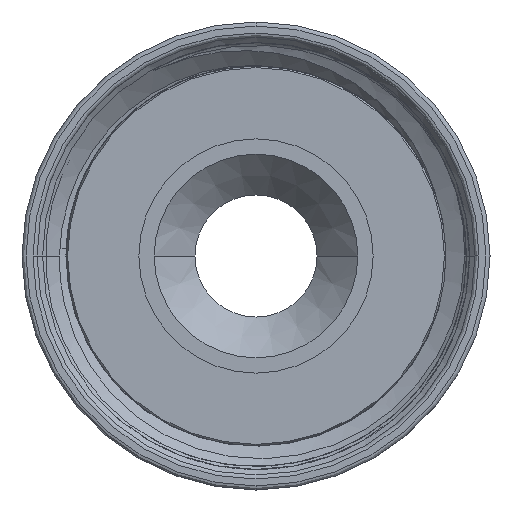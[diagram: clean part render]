
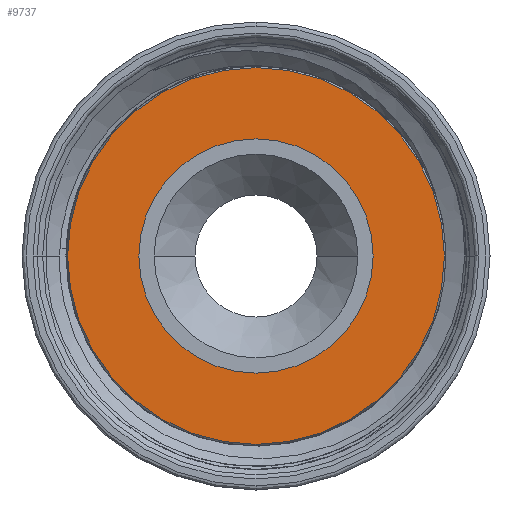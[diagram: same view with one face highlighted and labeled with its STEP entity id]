
A CAD part, front view. The second image highlights one B-rep face of the part: STEP entity #9737.
In plain terms, the highlighted planar face has unit normal (0, -1, 0).
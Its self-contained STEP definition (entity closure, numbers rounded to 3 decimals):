
#9578=CARTESIAN_POINT('',(0.,0.,0.));
#9579=DIRECTION('',(0.,1.,0.));
#9580=DIRECTION('',(1.,0.,0.));
#9581=AXIS2_PLACEMENT_3D('',#9578,#9579,#9580);
#9586=CARTESIAN_POINT('',(0.,0.,0.));
#9587=DIRECTION('',(0.,-1.,0.));
#9588=DIRECTION('',(1.,0.,0.));
#9589=AXIS2_PLACEMENT_3D('',#9586,#9587,#9588);
#9677=CARTESIAN_POINT('',(0.,0.,0.));
#9678=DIRECTION('',(0.,-1.,0.));
#9679=DIRECTION('',(1.,0.,0.));
#9680=AXIS2_PLACEMENT_3D('',#9677,#9678,#9679);
#9692=CARTESIAN_POINT('',(0.,0.,0.));
#9693=DIRECTION('',(0.,1.,0.));
#9694=DIRECTION('',(1.,0.,0.));
#9695=AXIS2_PLACEMENT_3D('',#9692,#9693,#9694);
#9700=CARTESIAN_POINT('',(9.25,0.,0.));
#9702=VERTEX_POINT('',#9700);
#9707=CARTESIAN_POINT('',(5.75,0.,0.));
#9709=VERTEX_POINT('',#9707);
#9710=CARTESIAN_POINT('',(-9.25,0.,0.));
#9712=VERTEX_POINT('',#9710);
#9717=CARTESIAN_POINT('',(-5.75,0.,0.));
#9719=VERTEX_POINT('',#9717);
#9720=CARTESIAN_POINT('',(0.,0.,0.));
#9721=DIRECTION('',(0.,1.,0.));
#9722=DIRECTION('',(1.,0.,0.));
#9723=AXIS2_PLACEMENT_3D('',#9720,#9721,#9722);
#9724=PLANE('',#9723);
#9726=ORIENTED_EDGE('',*,*,#9725,.F.);
#9728=ORIENTED_EDGE('',*,*,#9727,.T.);
#9729=EDGE_LOOP('',(#9726,#9728));
#9730=FACE_OUTER_BOUND('',#9729,.F.);
#9732=ORIENTED_EDGE('',*,*,#9731,.F.);
#9734=ORIENTED_EDGE('',*,*,#9733,.T.);
#9735=EDGE_LOOP('',(#9732,#9734));
#9736=FACE_BOUND('',#9735,.F.);
#9737=ADVANCED_FACE('',(#9730,#9736),#9724,.F.);
#9582=CIRCLE('',#9581,5.75);
#9590=CIRCLE('',#9589,5.75);
#9681=CIRCLE('',#9680,9.25);
#9696=CIRCLE('',#9695,9.25);
#9725=EDGE_CURVE('',#9702,#9712,#9681,.T.);
#9727=EDGE_CURVE('',#9702,#9712,#9696,.T.);
#9731=EDGE_CURVE('',#9709,#9719,#9582,.T.);
#9733=EDGE_CURVE('',#9709,#9719,#9590,.T.);
